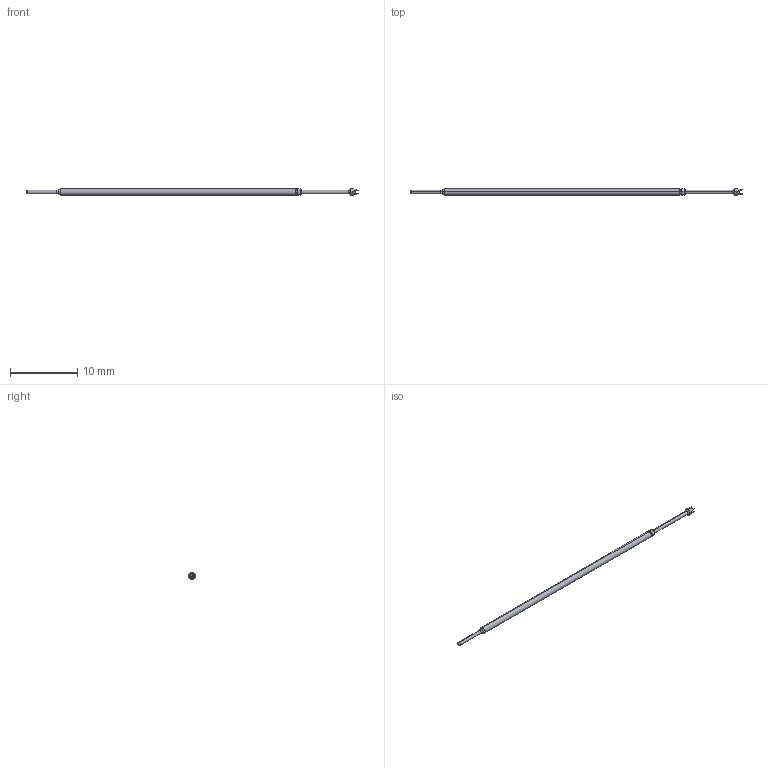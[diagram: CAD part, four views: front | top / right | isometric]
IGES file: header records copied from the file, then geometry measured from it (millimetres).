
Start section: SolidWorks IGES file using analytic representation for surfaces
Global section: file name: C:\Documents and Settings\mrumschlag\Desktop\changes\new\test\ L.IGS; native system: SolidWorks 2011; preprocessor: SolidWorks 2011; author: mrumschlag; date: 110630.142310; units: inch
Bounding box: 49.28 x 1.02 x 1.02 mm (x, y, z)
Surface area: 135.1 mm2 (no closed solid volume)
Topology: 0 solids, 0 shells, 37 faces, 194 edges, 192 vertices
Faces by surface type: revolution 20, bspline 17
